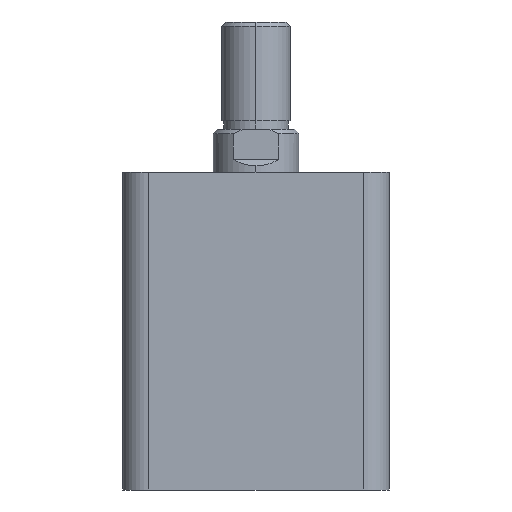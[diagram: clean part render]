
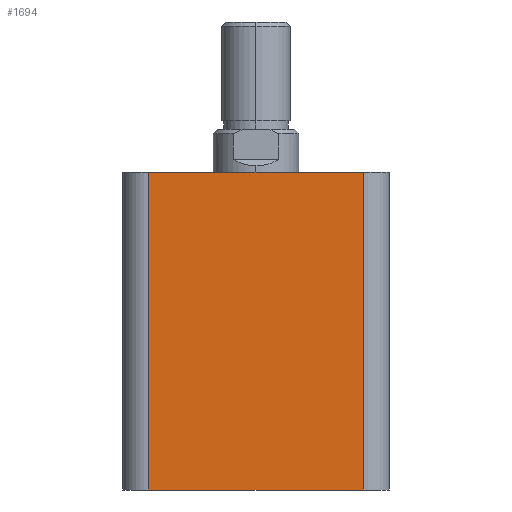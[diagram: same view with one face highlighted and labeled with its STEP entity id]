
A CAD part, left-side view. The second image highlights one B-rep face of the part: STEP entity #1694.
In plain terms, the highlighted planar face has unit normal (-1, 0, 0).
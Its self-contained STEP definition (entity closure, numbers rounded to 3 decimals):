
#84 = VERTEX_POINT ( 'NONE', #2603 ) ;
#85 = VERTEX_POINT ( 'NONE', #2600 ) ;
#107 = VERTEX_POINT ( 'NONE', #2561 ) ;
#109 = VERTEX_POINT ( 'NONE', #2560 ) ;
#391 = EDGE_CURVE ( 'NONE', #109, #107, #2860, .T. ) ;
#454 = EDGE_CURVE ( 'NONE', #85, #84, #5160, .T. ) ;
#472 = EDGE_CURVE ( 'NONE', #84, #107, #1748, .T. ) ;
#474 = EDGE_CURVE ( 'NONE', #109, #85, #1746, .T. ) ;
#1042 = AXIS2_PLACEMENT_3D ( 'NONE', #1829, #1834, #1835 ) ;
#1377 = ORIENTED_EDGE ( 'NONE', *, *, #454, .T. ) ;
#1447 = ORIENTED_EDGE ( 'NONE', *, *, #391, .F. ) ;
#1448 = ORIENTED_EDGE ( 'NONE', *, *, #472, .T. ) ;
#1449 = ORIENTED_EDGE ( 'NONE', *, *, #474, .T. ) ;
#1694 = ADVANCED_FACE ( 'NONE', ( #4594 ), #1832, .F. ) ;
#1743 = VECTOR ( 'NONE', #2379, 1000. ) ;
#1745 = VECTOR ( 'NONE', #2382, 1000. ) ;
#1746 = LINE ( 'NONE', #2381, #1743 ) ;
#1748 = LINE ( 'NONE', #2384, #1745 ) ;
#1829 = CARTESIAN_POINT ( 'NONE',  ( -31., 31., 74. ) ) ;
#1832 = PLANE ( 'NONE',  #1042 ) ;
#1834 = DIRECTION ( 'NONE',  ( 1., 0., 0. ) ) ;
#1835 = DIRECTION ( 'NONE',  ( 0., 0., -1. ) ) ;
#2371 = CARTESIAN_POINT ( 'NONE',  ( -31., 31., 0. ) ) ;
#2379 = DIRECTION ( 'NONE',  ( 0., 0., -1. ) ) ;
#2380 = DIRECTION ( 'NONE',  ( 0., -1., 0. ) ) ;
#2381 = CARTESIAN_POINT ( 'NONE',  ( -31., 25., 74. ) ) ;
#2382 = DIRECTION ( 'NONE',  ( 0., 0., 1. ) ) ;
#2384 = CARTESIAN_POINT ( 'NONE',  ( -31., -25., 74. ) ) ;
#2560 = CARTESIAN_POINT ( 'NONE',  ( -31., 25., 74. ) ) ;
#2561 = CARTESIAN_POINT ( 'NONE',  ( -31., -25., 74. ) ) ;
#2600 = CARTESIAN_POINT ( 'NONE',  ( -31., 25., 0. ) ) ;
#2603 = CARTESIAN_POINT ( 'NONE',  ( -31., -25., 0. ) ) ;
#2858 = VECTOR ( 'NONE', #3502, 1000. ) ;
#2860 = LINE ( 'NONE', #3503, #2858 ) ;
#3502 = DIRECTION ( 'NONE',  ( 0., -1., 0. ) ) ;
#3503 = CARTESIAN_POINT ( 'NONE',  ( -31., 31., 74. ) ) ;
#4594 = FACE_OUTER_BOUND ( 'NONE', #5112, .T. ) ;
#5112 = EDGE_LOOP ( 'NONE', ( #1377, #1448, #1447, #1449 ) ) ;
#5155 = VECTOR ( 'NONE', #2380, 1000. ) ;
#5160 = LINE ( 'NONE', #2371, #5155 ) ;
